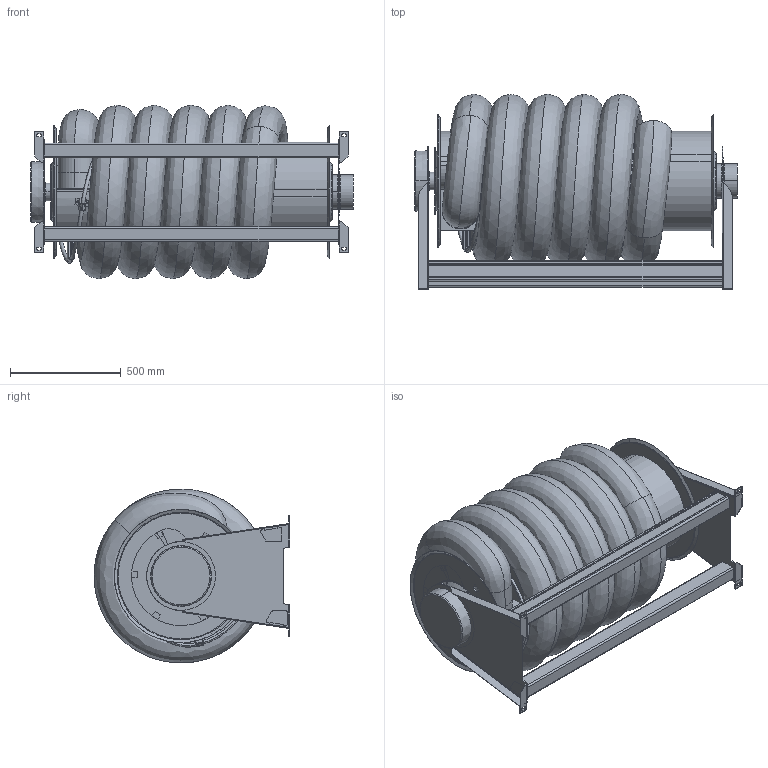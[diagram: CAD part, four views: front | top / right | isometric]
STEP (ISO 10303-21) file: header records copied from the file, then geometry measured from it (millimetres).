
FILE_DESCRIPTION((''),'2;1');
FILE_NAME('ASE_125_150-10_SW0001','2016-12-15T',('Martin Eriksson'),(''),'CREO PARAMETRIC BY PTC INC, 2016130','CREO PARAMETRIC BY PTC INC, 2016130','');
FILE_SCHEMA(('AUTOMOTIVE_DESIGN { 1 0 10303 214 1 1 1 1 }'));
Length unit declared in the file: millimetre
Products named in the file (1): ASE_125_150-10_SW0001
Bounding box: 1453.5 x 881.49 x 782.95 mm (x, y, z)
Surface area: 11030409.8 mm2 (no closed solid volume)
Topology: 0 solids, 30 shells, 324 faces, 1145 edges, 840 vertices
Faces by surface type: plane 166, cylinder 88, torus 27, bspline 23, cone 20
Entity records: 24973 total; most frequent: CARTESIAN_POINT 13219, DIRECTION 2059, ORIENTED_EDGE 1672, EDGE_CURVE 1145, VERTEX_POINT 840, VECTOR 721, LINE 721, AXIS2_PLACEMENT_3D 669
